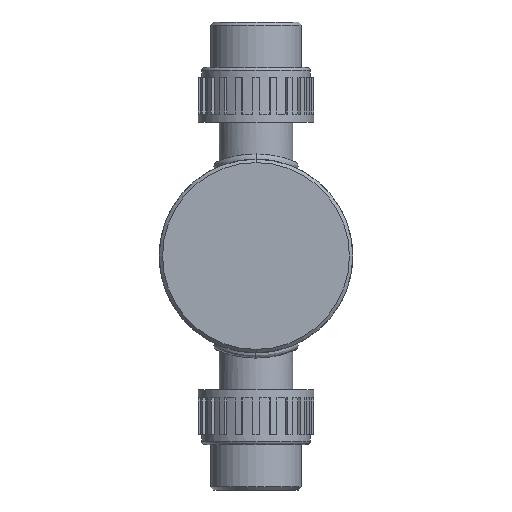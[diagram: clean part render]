
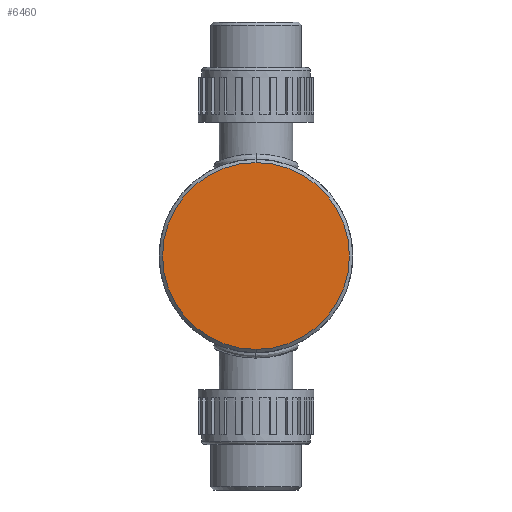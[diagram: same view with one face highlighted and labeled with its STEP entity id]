
A CAD part, front view. The second image highlights one B-rep face of the part: STEP entity #6460.
In plain terms, the highlighted planar face has unit normal (0, -1, 0).
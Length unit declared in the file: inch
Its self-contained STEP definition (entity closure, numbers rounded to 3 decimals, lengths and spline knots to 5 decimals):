
#501 = DIRECTION ( 'NONE',  ( 0., 0., 1. ) ) ;
#818 = ORIENTED_EDGE ( 'NONE', *, *, #2342, .T. ) ;
#2335 = AXIS2_PLACEMENT_3D ( 'NONE', #4408, #11203, #5377 ) ;
#2342 = EDGE_CURVE ( 'NONE', #6041, #3310, #10834, .T. ) ;
#3310 = VERTEX_POINT ( 'NONE', #5826 ) ;
#3413 = CARTESIAN_POINT ( 'NONE',  ( 0., 0., 0. ) ) ;
#4289 = AXIS2_PLACEMENT_3D ( 'NONE', #3413, #6350, #501 ) ;
#4408 = CARTESIAN_POINT ( 'NONE',  ( 0., 0., 0. ) ) ;
#4435 = AXIS2_PLACEMENT_3D ( 'NONE', #10383, #4558, #11350 ) ;
#4558 = DIRECTION ( 'NONE',  ( 0., -1., 0. ) ) ;
#4761 = CARTESIAN_POINT ( 'NONE',  ( 0., 0., -1.665 ) ) ;
#5377 = DIRECTION ( 'NONE',  ( 0., 0., 1. ) ) ;
#5409 = EDGE_LOOP ( 'NONE', ( #9306, #818 ) ) ;
#5826 = CARTESIAN_POINT ( 'NONE',  ( 0., 0., 1.665 ) ) ;
#6041 = VERTEX_POINT ( 'NONE', #4761 ) ;
#6350 = DIRECTION ( 'NONE',  ( 0., 1., 0. ) ) ;
#6436 = EDGE_CURVE ( 'NONE', #3310, #6041, #11253, .T. ) ;
#6460 = ADVANCED_FACE ( 'NONE', ( #8366 ), #12142, .F. ) ;
#8366 = FACE_OUTER_BOUND ( 'NONE', #5409, .T. ) ;
#9306 = ORIENTED_EDGE ( 'NONE', *, *, #6436, .T. ) ;
#10383 = CARTESIAN_POINT ( 'NONE',  ( 0., 0., 0. ) ) ;
#10834 = CIRCLE ( 'NONE', #4435, 1.665 ) ;
#11203 = DIRECTION ( 'NONE',  ( 0., -1., 0. ) ) ;
#11253 = CIRCLE ( 'NONE', #2335, 1.665 ) ;
#11350 = DIRECTION ( 'NONE',  ( 0., 0., 1. ) ) ;
#12142 = PLANE ( 'NONE',  #4289 ) ;
